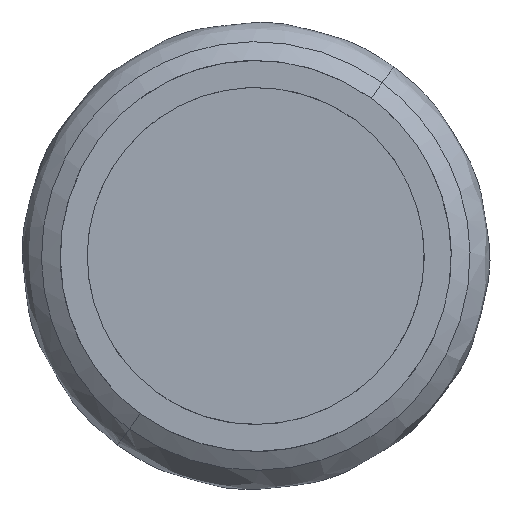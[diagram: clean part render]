
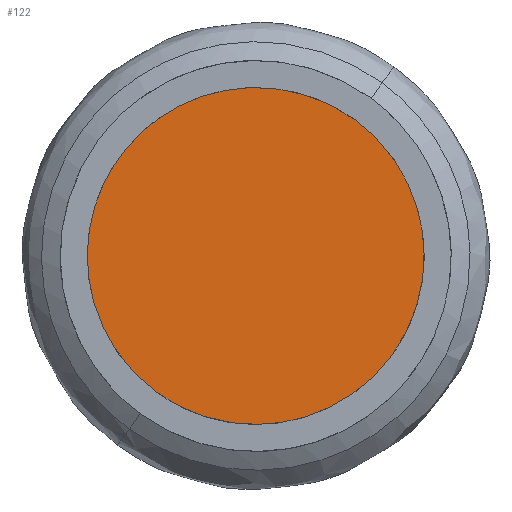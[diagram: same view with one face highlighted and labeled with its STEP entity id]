
A CAD part, left-side view. The second image highlights one B-rep face of the part: STEP entity #122.
In plain terms, the highlighted free-form (B-spline) face has degree [1, 1] with [2, 2] control points.
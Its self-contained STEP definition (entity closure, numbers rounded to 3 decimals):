
#122=ADVANCED_FACE('',(#241),#242,.T.);
#241=FACE_OUTER_BOUND('',#758,.T.);
#242=B_SPLINE_SURFACE_WITH_KNOTS('',1,1,((#759,#760),(#761,#762)),.UNSPECIFIED.,.F.,.F.,.F.,(2,2),(2,2),(0.0,25.35),(0.0,25.35),.UNSPECIFIED.);
#758=EDGE_LOOP('',(#1054,#1055,#1056));
#759=CARTESIAN_POINT('',(-6.,-12.675,-12.675));
#760=CARTESIAN_POINT('',(-6.,12.675,-12.675));
#761=CARTESIAN_POINT('',(-6.,-12.675,12.675));
#762=CARTESIAN_POINT('',(-6.,12.675,12.675));
#1054=ORIENTED_EDGE('',*,*,#1203,.T.);
#1055=ORIENTED_EDGE('',*,*,#1095,.T.);
#1056=ORIENTED_EDGE('',*,*,#1204,.T.);
#1095=EDGE_CURVE('',#1235,#1232,#1236,.T.);
#1203=EDGE_CURVE('',#1392,#1235,#1393,.T.);
#1204=EDGE_CURVE('',#1232,#1392,#1394,.T.);
#1232=VERTEX_POINT('',#1534);
#1235=VERTEX_POINT('',#1538);
#1236=(B_SPLINE_CURVE(2,(#1540,#1541,#1542,#1543,#1544),.UNSPECIFIED.,.F.,.F.)B_SPLINE_CURVE_WITH_KNOTS((3,2,3),(-1.571,0.,1.571),.UNSPECIFIED.)RATIONAL_B_SPLINE_CURVE((1.0,0.707,1.0,0.707,1.0))BOUNDED_CURVE()REPRESENTATION_ITEM('')GEOMETRIC_REPRESENTATION_ITEM()CURVE());
#1392=VERTEX_POINT('',#2045);
#1393=(B_SPLINE_CURVE(2,(#2047,#2048,#2049),.UNSPECIFIED.,.F.,.F.)B_SPLINE_CURVE_WITH_KNOTS((3,3),(-3.142,-1.571),.UNSPECIFIED.)RATIONAL_B_SPLINE_CURVE((1.0,0.707,1.0))BOUNDED_CURVE()REPRESENTATION_ITEM('')GEOMETRIC_REPRESENTATION_ITEM()CURVE());
#1394=(B_SPLINE_CURVE(2,(#2057,#2058,#2059),.UNSPECIFIED.,.F.,.F.)B_SPLINE_CURVE_WITH_KNOTS((3,3),(1.571,3.142),.UNSPECIFIED.)RATIONAL_B_SPLINE_CURVE((1.0,0.707,1.0))BOUNDED_CURVE()REPRESENTATION_ITEM('')GEOMETRIC_REPRESENTATION_ITEM()CURVE());
#1534=CARTESIAN_POINT('',(-6.,7.478,-10.234));
#1538=CARTESIAN_POINT('',(-6.,-7.478,10.234));
#1540=CARTESIAN_POINT('',(-6.,-7.478,10.234));
#1541=CARTESIAN_POINT('',(-6.,2.757,17.712));
#1542=CARTESIAN_POINT('',(-6.,10.234,7.478));
#1543=CARTESIAN_POINT('',(-6.,17.712,-2.757));
#1544=CARTESIAN_POINT('',(-6.,7.478,-10.234));
#2045=CARTESIAN_POINT('',(-6.,-10.234,-7.478));
#2047=CARTESIAN_POINT('',(-6.,-10.234,-7.478));
#2048=CARTESIAN_POINT('',(-6.,-17.712,2.757));
#2049=CARTESIAN_POINT('',(-6.,-7.478,10.234));
#2057=CARTESIAN_POINT('',(-6.,7.478,-10.234));
#2058=CARTESIAN_POINT('',(-6.,-2.757,-17.712));
#2059=CARTESIAN_POINT('',(-6.,-10.234,-7.478));
